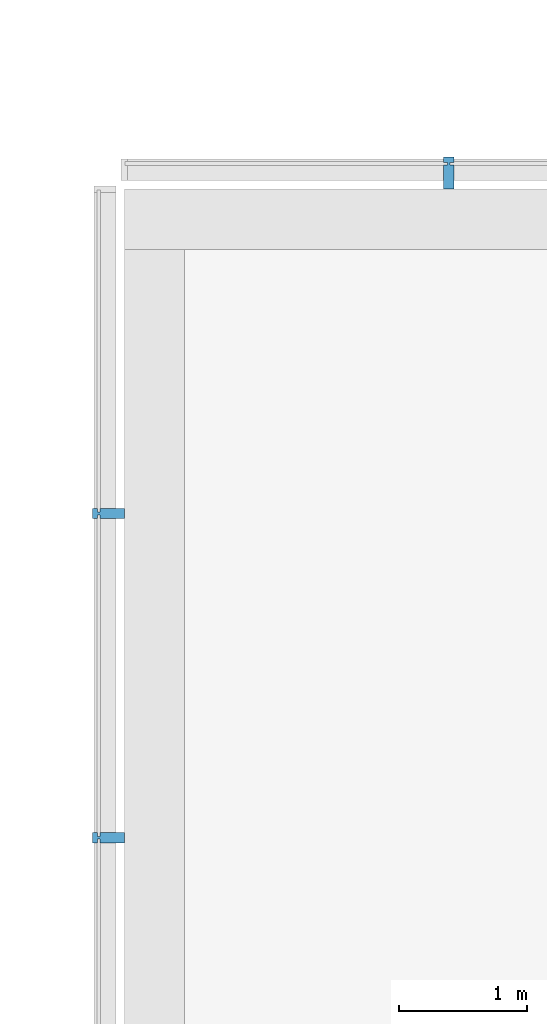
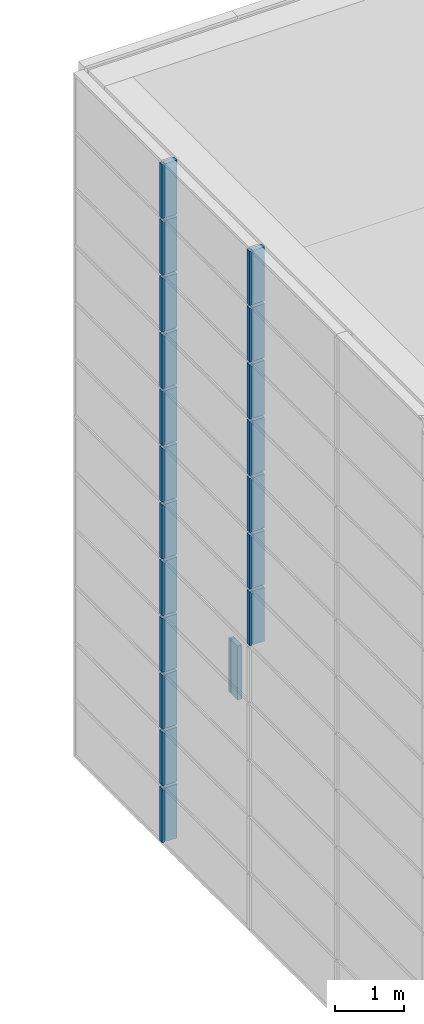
# One storey, part 84 of 105: 20 building element parts, 5 elements without a shape of their own.
"""IFC4 building model written with IfcOpenShell, lengths in millimetres."""

from ifc_helpers import new_model, entity, si_unit, converted_unit, derived_unit, direction, frame, origin_with_axes, place, context, subcontext, project, spatial, triangles, material, element, aggregate, save


model = new_model("IFC4")

# Units and contexts
model_context = context("Model", 3, precision=1e-05, world=origin_with_axes(), true_north=direction((0.0, 1.0)))
body_context = subcontext(model_context, "Body", "Model", "MODEL_VIEW")
ifc_project = project(units=[si_unit("LENGTHUNIT", "METRE", prefix="MILLI"), si_unit("AREAUNIT", "SQUARE_METRE"), si_unit("VOLUMEUNIT", "CUBIC_METRE"), converted_unit("PLANEANGLEUNIT", "DEGREE", entity("IfcLengthMeasure", 0.017453), si_unit("PLANEANGLEUNIT", "RADIAN"), dimensions=[0, 0, 0, 0, 0, 0, 0]), si_unit("SOLIDANGLEUNIT", "STERADIAN"), si_unit("MASSUNIT", "GRAM"), si_unit("TIMEUNIT", "SECOND"), si_unit("THERMODYNAMICTEMPERATUREUNIT", "DEGREE_CELSIUS"), si_unit("LUMINOUSINTENSITYUNIT", "LUMEN"), si_unit("POWERUNIT", "WATT"), derived_unit("THERMALTRANSMITTANCEUNIT", [(si_unit("POWERUNIT", "WATT"), 1), (si_unit("THERMODYNAMICTEMPERATUREUNIT", "KELVIN"), -1), (si_unit("AREAUNIT", "SQUARE_METRE"), -1)])], contexts=[model_context])

# Site, building, storey
site_placement = place(None, origin_with_axes())
site = spatial("IfcSite", under=ifc_project, at=site_placement, Name="Default Site", CompositionType="ELEMENT")
building_placement = place(site_placement, origin_with_axes())
building = spatial("IfcBuilding", under=site, at=building_placement, Name="Default Building", CompositionType="ELEMENT")
storey_placement = place(building_placement, origin_with_axes())
storey = spatial("IfcBuildingStorey", under=building, at=storey_placement, Name="OG - Story", CompositionType="ELEMENT", Elevation=0.0)

# Curtain wall, building element parts
curtain_wall_1_placement = place(storey_placement, origin_with_axes())
curtain_wall_1 = element("IfcCurtainWall", 1, at=curtain_wall_1_placement, inside=storey, Name="Fassade-003", PredefinedType="NOTDEFINED")
ifc_material = material(Name="Blech")
building_element_part_1_placement = place(curtain_wall_1_placement, frame((31551.391327, -51326.104944, 0.0), z_axis=(0.0, 0.0, 1.0), x_axis=(1.0, 0.0, 0.0)))
building_element_part_1 = element("IfcBuildingElementPart", 2, at=building_element_part_1_placement, material=ifc_material, Name="Blech", PredefinedType="NOTDEFINED", context=body_context, shape_type="Tessellation", body=[
    triangles([(200.0, 44170.526, 975.0), (10.0, 44170.526, 975.0), (200.0, 44250.526, 975.0), (10.0, 44200.526, 975.0), (10.0, 44220.526, 975.0), (-9.999, 44200.526, 975.0), (-9.999, 44220.526, 975.0), (-9.999, 44250.526, 975.0), (-9.999, 44170.526, 975.0), (-49.999, 44170.526, 975.0), (-49.999, 44250.526, 975.0), (10.0, 44250.526, 975.0), (10.0, 44220.526, 25.0), (-9.999, 44220.526, 25.0), (-9.999, 44250.526, 25.0), (-49.999, 44250.526, 25.0), (-49.999, 44170.526, 25.0), (-9.999, 44170.526, 25.0), (-9.999, 44200.526, 25.0), (10.0, 44200.526, 25.0), (10.0, 44170.526, 25.0), (200.0, 44170.526, 25.0), (200.0, 44250.526, 25.0), (10.0, 44250.526, 25.0)], [[1, 2, 3], [3, 2, 4], [3, 4, 5], [5, 4, 6], [5, 6, 7], [8, 9, 10], [8, 10, 11], [3, 5, 12], [5, 13, 14], [5, 14, 7], [7, 14, 15], [7, 15, 8], [15, 16, 11], [15, 11, 8], [10, 11, 16], [10, 16, 17], [18, 9, 10], [18, 10, 17], [9, 18, 19], [9, 19, 6], [4, 6, 19], [4, 19, 20], [2, 4, 20], [2, 20, 21], [2, 21, 22], [2, 22, 1], [3, 1, 22], [3, 22, 23], [12, 3, 23], [12, 23, 24], [12, 24, 13], [12, 13, 5], [23, 24, 22], [22, 24, 13], [22, 13, 20], [20, 13, 14], [20, 14, 19], [18, 15, 16], [18, 16, 17], [22, 20, 21]], closed=False),
])
building_element_part_2_placement = place(curtain_wall_1_placement, frame((31551.391327, -51326.104944, 0.0), z_axis=(0.0, 0.0, 1.0), x_axis=(1.0, 0.0, 0.0)))
building_element_part_2 = element("IfcBuildingElementPart", 3, at=building_element_part_2_placement, material=ifc_material, Name="Blech", PredefinedType="NOTDEFINED", context=body_context, shape_type="Tessellation", body=[
    triangles([(200.0, 44170.526, 1975.0), (10.0, 44170.526, 1975.0), (200.0, 44250.526, 1975.0), (10.0, 44200.526, 1975.0), (10.0, 44220.526, 1975.0), (-9.999, 44200.526, 1975.0), (-9.999, 44220.526, 1975.0), (-9.999, 44250.526, 1975.0), (-9.999, 44170.526, 1975.0), (-49.999, 44170.526, 1975.0), (-49.999, 44250.526, 1975.0), (10.0, 44250.526, 1975.0), (10.0, 44220.526, 1025.0), (-9.999, 44220.526, 1025.0), (-9.999, 44250.526, 1025.0), (-49.999, 44250.526, 1025.0), (-49.999, 44170.526, 1025.0), (-9.999, 44170.526, 1025.0), (-9.999, 44200.526, 1025.0), (10.0, 44200.526, 1025.0), (10.0, 44170.526, 1025.0), (200.0, 44170.526, 1025.0), (200.0, 44250.526, 1025.0), (10.0, 44250.526, 1025.0)], [[1, 2, 3], [3, 2, 4], [3, 4, 5], [5, 4, 6], [5, 6, 7], [8, 9, 10], [8, 10, 11], [3, 5, 12], [5, 13, 14], [5, 14, 7], [7, 14, 15], [7, 15, 8], [15, 16, 11], [15, 11, 8], [10, 11, 16], [10, 16, 17], [18, 9, 10], [18, 10, 17], [9, 18, 19], [9, 19, 6], [4, 6, 19], [4, 19, 20], [2, 4, 20], [2, 20, 21], [2, 21, 22], [2, 22, 1], [3, 1, 22], [3, 22, 23], [12, 3, 23], [12, 23, 24], [12, 24, 13], [12, 13, 5], [23, 24, 22], [22, 24, 13], [22, 13, 20], [20, 13, 14], [20, 14, 19], [18, 15, 16], [18, 16, 17], [22, 20, 21]], closed=False),
])
building_element_part_3_placement = place(curtain_wall_1_placement, frame((31551.391327, -51326.104944, 0.0), z_axis=(0.0, 0.0, 1.0), x_axis=(1.0, 0.0, 0.0)))
building_element_part_3 = element("IfcBuildingElementPart", 4, at=building_element_part_3_placement, material=ifc_material, Name="Blech", PredefinedType="NOTDEFINED", context=body_context, shape_type="Tessellation", body=[
    triangles([(200.0, 44170.526, 2975.0), (10.0, 44170.526, 2975.0), (200.0, 44250.526, 2975.0), (10.0, 44200.526, 2975.0), (10.0, 44220.526, 2975.0), (-9.999, 44200.526, 2975.0), (-9.999, 44220.526, 2975.0), (-9.999, 44250.526, 2975.0), (-9.999, 44170.526, 2975.0), (-49.999, 44170.526, 2975.0), (-49.999, 44250.526, 2975.0), (10.0, 44250.526, 2975.0), (10.0, 44220.526, 2025.0), (-9.999, 44220.526, 2025.0), (-9.999, 44250.526, 2025.0), (-49.999, 44250.526, 2025.0), (-49.999, 44170.526, 2025.0), (-9.999, 44170.526, 2025.0), (-9.999, 44200.526, 2025.0), (10.0, 44200.526, 2025.0), (10.0, 44170.526, 2025.0), (200.0, 44170.526, 2025.0), (200.0, 44250.526, 2025.0), (10.0, 44250.526, 2025.0)], [[1, 2, 3], [3, 2, 4], [3, 4, 5], [5, 4, 6], [5, 6, 7], [8, 9, 10], [8, 10, 11], [3, 5, 12], [5, 13, 14], [5, 14, 7], [7, 14, 15], [7, 15, 8], [15, 16, 11], [15, 11, 8], [10, 11, 16], [10, 16, 17], [18, 9, 10], [18, 10, 17], [9, 18, 19], [9, 19, 6], [4, 6, 19], [4, 19, 20], [2, 4, 20], [2, 20, 21], [2, 21, 22], [2, 22, 1], [3, 1, 22], [3, 22, 23], [12, 3, 23], [12, 23, 24], [12, 24, 13], [12, 13, 5], [23, 24, 22], [22, 24, 13], [22, 13, 20], [20, 13, 14], [20, 14, 19], [18, 15, 16], [18, 16, 17], [22, 20, 21]], closed=False),
])
aggregate(curtain_wall_1, [building_element_part_1, building_element_part_2, building_element_part_3])

curtain_wall_2_placement = place(storey_placement, origin_with_axes())
curtain_wall_2 = element("IfcCurtainWall", 5, at=curtain_wall_2_placement, inside=storey, Name="Fassade-003", PredefinedType="NOTDEFINED")
building_element_part_4_placement = place(curtain_wall_2_placement, frame((31551.391327, -51326.104944, 3000.0), z_axis=(0.0, 0.0, 1.0), x_axis=(1.0, 0.0, 0.0)))
building_element_part_4 = element("IfcBuildingElementPart", 6, at=building_element_part_4_placement, material=ifc_material, Name="Blech", PredefinedType="NOTDEFINED", context=body_context, shape_type="Tessellation", body=[
    triangles([(200.0, 44170.526, 975.0), (10.0, 44170.526, 975.0), (200.0, 44250.526, 975.0), (10.0, 44200.526, 975.0), (10.0, 44220.526, 975.0), (-9.999, 44200.526, 975.0), (-9.999, 44220.526, 975.0), (-9.999, 44250.526, 975.0), (-9.999, 44170.526, 975.0), (-49.999, 44170.526, 975.0), (-49.999, 44250.526, 975.0), (10.0, 44250.526, 975.0), (10.0, 44220.526, 25.0), (-9.999, 44220.526, 25.0), (-9.999, 44250.526, 25.0), (-49.999, 44250.526, 25.0), (-49.999, 44170.526, 25.0), (-9.999, 44170.526, 25.0), (-9.999, 44200.526, 25.0), (10.0, 44200.526, 25.0), (10.0, 44170.526, 25.0), (200.0, 44170.526, 25.0), (200.0, 44250.526, 25.0), (10.0, 44250.526, 25.0)], [[1, 2, 3], [3, 2, 4], [3, 4, 5], [5, 4, 6], [5, 6, 7], [8, 9, 10], [8, 10, 11], [3, 5, 12], [5, 13, 14], [5, 14, 7], [7, 14, 15], [7, 15, 8], [15, 16, 11], [15, 11, 8], [10, 11, 16], [10, 16, 17], [18, 9, 10], [18, 10, 17], [9, 18, 19], [9, 19, 6], [4, 6, 19], [4, 19, 20], [2, 4, 20], [2, 20, 21], [2, 21, 22], [2, 22, 1], [3, 1, 22], [3, 22, 23], [12, 3, 23], [12, 23, 24], [12, 24, 13], [12, 13, 5], [23, 24, 22], [22, 24, 13], [22, 13, 20], [20, 13, 14], [20, 14, 19], [18, 15, 16], [18, 16, 17], [22, 20, 21]], closed=False),
])
building_element_part_5_placement = place(curtain_wall_2_placement, frame((31551.391327, -51326.104944, 3000.0), z_axis=(0.0, 0.0, 1.0), x_axis=(1.0, 0.0, 0.0)))
building_element_part_5 = element("IfcBuildingElementPart", 7, at=building_element_part_5_placement, material=ifc_material, Name="Blech", PredefinedType="NOTDEFINED", context=body_context, shape_type="Tessellation", body=[
    triangles([(200.0, 44170.526, 1975.0), (10.0, 44170.526, 1975.0), (200.0, 44250.526, 1975.0), (10.0, 44200.526, 1975.0), (10.0, 44220.526, 1975.0), (-9.999, 44200.526, 1975.0), (-9.999, 44220.526, 1975.0), (-9.999, 44250.526, 1975.0), (-9.999, 44170.526, 1975.0), (-49.999, 44170.526, 1975.0), (-49.999, 44250.526, 1975.0), (10.0, 44250.526, 1975.0), (10.0, 44220.526, 1025.0), (-9.999, 44220.526, 1025.0), (-9.999, 44250.526, 1025.0), (-49.999, 44250.526, 1025.0), (-49.999, 44170.526, 1025.0), (-9.999, 44170.526, 1025.0), (-9.999, 44200.526, 1025.0), (10.0, 44200.526, 1025.0), (10.0, 44170.526, 1025.0), (200.0, 44170.526, 1025.0), (200.0, 44250.526, 1025.0), (10.0, 44250.526, 1025.0)], [[1, 2, 3], [3, 2, 4], [3, 4, 5], [5, 4, 6], [5, 6, 7], [8, 9, 10], [8, 10, 11], [3, 5, 12], [5, 13, 14], [5, 14, 7], [7, 14, 15], [7, 15, 8], [15, 16, 11], [15, 11, 8], [10, 11, 16], [10, 16, 17], [18, 9, 10], [18, 10, 17], [9, 18, 19], [9, 19, 6], [4, 6, 19], [4, 19, 20], [2, 4, 20], [2, 20, 21], [2, 21, 22], [2, 22, 1], [3, 1, 22], [3, 22, 23], [12, 3, 23], [12, 23, 24], [12, 24, 13], [12, 13, 5], [23, 24, 22], [22, 24, 13], [22, 13, 20], [20, 13, 14], [20, 14, 19], [18, 15, 16], [18, 16, 17], [22, 20, 21]], closed=False),
])
building_element_part_6_placement = place(curtain_wall_2_placement, frame((31551.391327, -51326.104944, 3000.0), z_axis=(0.0, 0.0, 1.0), x_axis=(1.0, 0.0, 0.0)))
building_element_part_6 = element("IfcBuildingElementPart", 8, at=building_element_part_6_placement, material=ifc_material, Name="Blech", PredefinedType="NOTDEFINED", context=body_context, shape_type="Tessellation", body=[
    triangles([(200.0, 41644.211, 2975.0), (10.0, 41644.211, 2975.0), (200.0, 41724.211, 2975.0), (10.0, 41674.211, 2975.0), (10.0, 41694.211, 2975.0), (-9.999, 41674.211, 2975.0), (-9.999, 41694.211, 2975.0), (-9.999, 41724.211, 2975.0), (-9.999, 41644.211, 2975.0), (-49.999, 41644.211, 2975.0), (-49.999, 41724.211, 2975.0), (10.0, 41724.211, 2975.0), (10.0, 41694.211, 2025.0), (-9.999, 41694.211, 2025.0), (-9.999, 41724.211, 2025.0), (-49.999, 41724.211, 2025.0), (-49.999, 41644.211, 2025.0), (-9.999, 41644.211, 2025.0), (-9.999, 41674.211, 2025.0), (10.0, 41674.211, 2025.0), (10.0, 41644.211, 2025.0), (200.0, 41644.211, 2025.0), (200.0, 41724.211, 2025.0), (10.0, 41724.211, 2025.0)], [[1, 2, 3], [3, 2, 4], [3, 4, 5], [5, 4, 6], [5, 6, 7], [8, 9, 10], [8, 10, 11], [3, 5, 12], [5, 13, 14], [5, 14, 7], [7, 14, 15], [7, 15, 8], [15, 16, 11], [15, 11, 8], [10, 11, 16], [10, 16, 17], [18, 9, 10], [18, 10, 17], [9, 18, 19], [9, 19, 6], [4, 6, 19], [4, 19, 20], [2, 4, 20], [2, 20, 21], [2, 21, 22], [2, 22, 1], [3, 1, 22], [3, 22, 23], [12, 3, 23], [12, 23, 24], [12, 24, 13], [12, 13, 5], [23, 24, 22], [22, 24, 13], [22, 13, 20], [20, 13, 14], [20, 14, 19], [18, 15, 16], [18, 16, 17], [22, 20, 21]], closed=False),
])
building_element_part_7_placement = place(curtain_wall_2_placement, frame((31551.391327, -51326.104944, 3000.0), z_axis=(0.0, 0.0, 1.0), x_axis=(1.0, 0.0, 0.0)))
building_element_part_7 = element("IfcBuildingElementPart", 9, at=building_element_part_7_placement, material=ifc_material, Name="Blech", PredefinedType="NOTDEFINED", context=body_context, shape_type="Tessellation", body=[
    triangles([(200.0, 44170.526, 2975.0), (10.0, 44170.526, 2975.0), (200.0, 44250.526, 2975.0), (10.0, 44200.526, 2975.0), (10.0, 44220.526, 2975.0), (-9.999, 44200.526, 2975.0), (-9.999, 44220.526, 2975.0), (-9.999, 44250.526, 2975.0), (-9.999, 44170.526, 2975.0), (-49.999, 44170.526, 2975.0), (-49.999, 44250.526, 2975.0), (10.0, 44250.526, 2975.0), (10.0, 44220.526, 2025.0), (-9.999, 44220.526, 2025.0), (-9.999, 44250.526, 2025.0), (-49.999, 44250.526, 2025.0), (-49.999, 44170.526, 2025.0), (-9.999, 44170.526, 2025.0), (-9.999, 44200.526, 2025.0), (10.0, 44200.526, 2025.0), (10.0, 44170.526, 2025.0), (200.0, 44170.526, 2025.0), (200.0, 44250.526, 2025.0), (10.0, 44250.526, 2025.0)], [[1, 2, 3], [3, 2, 4], [3, 4, 5], [5, 4, 6], [5, 6, 7], [8, 9, 10], [8, 10, 11], [3, 5, 12], [5, 13, 14], [5, 14, 7], [7, 14, 15], [7, 15, 8], [15, 16, 11], [15, 11, 8], [10, 11, 16], [10, 16, 17], [18, 9, 10], [18, 10, 17], [9, 18, 19], [9, 19, 6], [4, 6, 19], [4, 19, 20], [2, 4, 20], [2, 20, 21], [2, 21, 22], [2, 22, 1], [3, 1, 22], [3, 22, 23], [12, 3, 23], [12, 23, 24], [12, 24, 13], [12, 13, 5], [23, 24, 22], [22, 24, 13], [22, 13, 20], [20, 13, 14], [20, 14, 19], [18, 15, 16], [18, 16, 17], [22, 20, 21]], closed=False),
])
aggregate(curtain_wall_2, [building_element_part_4, building_element_part_5, building_element_part_6, building_element_part_7])

curtain_wall_3_placement = place(storey_placement, origin_with_axes())
curtain_wall_3 = element("IfcCurtainWall", 10, at=curtain_wall_3_placement, inside=storey, Name="Fassade-003", PredefinedType="NOTDEFINED")
building_element_part_8_placement = place(curtain_wall_3_placement, frame((31551.391327, -51326.104944, 6000.0), z_axis=(0.0, 0.0, 1.0), x_axis=(1.0, 0.0, 0.0)))
building_element_part_8 = element("IfcBuildingElementPart", 11, at=building_element_part_8_placement, material=ifc_material, Name="Blech", PredefinedType="NOTDEFINED", context=body_context, shape_type="Tessellation", body=[
    triangles([(200.0, 41644.211, 975.0), (10.0, 41644.211, 975.0), (200.0, 41724.211, 975.0), (10.0, 41674.211, 975.0), (10.0, 41694.211, 975.0), (-9.999, 41674.211, 975.0), (-9.999, 41694.211, 975.0), (-9.999, 41724.211, 975.0), (-9.999, 41644.211, 975.0), (-49.999, 41644.211, 975.0), (-49.999, 41724.211, 975.0), (10.0, 41724.211, 975.0), (10.0, 41694.211, 25.0), (-9.999, 41694.211, 25.0), (-9.999, 41724.211, 25.0), (-49.999, 41724.211, 25.0), (-49.999, 41644.211, 25.0), (-9.999, 41644.211, 25.0), (-9.999, 41674.211, 25.0), (10.0, 41674.211, 25.0), (10.0, 41644.211, 25.0), (200.0, 41644.211, 25.0), (200.0, 41724.211, 25.0), (10.0, 41724.211, 25.0)], [[1, 2, 3], [3, 2, 4], [3, 4, 5], [5, 4, 6], [5, 6, 7], [8, 9, 10], [8, 10, 11], [3, 5, 12], [5, 13, 14], [5, 14, 7], [7, 14, 15], [7, 15, 8], [15, 16, 11], [15, 11, 8], [10, 11, 16], [10, 16, 17], [18, 9, 10], [18, 10, 17], [9, 18, 19], [9, 19, 6], [4, 6, 19], [4, 19, 20], [2, 4, 20], [2, 20, 21], [2, 21, 22], [2, 22, 1], [3, 1, 22], [3, 22, 23], [12, 3, 23], [12, 23, 24], [12, 24, 13], [12, 13, 5], [23, 24, 22], [22, 24, 13], [22, 13, 20], [20, 13, 14], [20, 14, 19], [18, 15, 16], [18, 16, 17], [22, 20, 21]], closed=False),
])
building_element_part_9_placement = place(curtain_wall_3_placement, frame((31551.391327, -51326.104944, 6000.0), z_axis=(0.0, 0.0, 1.0), x_axis=(1.0, 0.0, 0.0)))
building_element_part_9 = element("IfcBuildingElementPart", 12, at=building_element_part_9_placement, material=ifc_material, Name="Blech", PredefinedType="NOTDEFINED", context=body_context, shape_type="Tessellation", body=[
    triangles([(200.0, 44170.526, 975.0), (10.0, 44170.526, 975.0), (200.0, 44250.526, 975.0), (10.0, 44200.526, 975.0), (10.0, 44220.526, 975.0), (-9.999, 44200.526, 975.0), (-9.999, 44220.526, 975.0), (-9.999, 44250.526, 975.0), (-9.999, 44170.526, 975.0), (-49.999, 44170.526, 975.0), (-49.999, 44250.526, 975.0), (10.0, 44250.526, 975.0), (10.0, 44220.526, 25.0), (-9.999, 44220.526, 25.0), (-9.999, 44250.526, 25.0), (-49.999, 44250.526, 25.0), (-49.999, 44170.526, 25.0), (-9.999, 44170.526, 25.0), (-9.999, 44200.526, 25.0), (10.0, 44200.526, 25.0), (10.0, 44170.526, 25.0), (200.0, 44170.526, 25.0), (200.0, 44250.526, 25.0), (10.0, 44250.526, 25.0)], [[1, 2, 3], [3, 2, 4], [3, 4, 5], [5, 4, 6], [5, 6, 7], [8, 9, 10], [8, 10, 11], [3, 5, 12], [5, 13, 14], [5, 14, 7], [7, 14, 15], [7, 15, 8], [15, 16, 11], [15, 11, 8], [10, 11, 16], [10, 16, 17], [18, 9, 10], [18, 10, 17], [9, 18, 19], [9, 19, 6], [4, 6, 19], [4, 19, 20], [2, 4, 20], [2, 20, 21], [2, 21, 22], [2, 22, 1], [3, 1, 22], [3, 22, 23], [12, 3, 23], [12, 23, 24], [12, 24, 13], [12, 13, 5], [23, 24, 22], [22, 24, 13], [22, 13, 20], [20, 13, 14], [20, 14, 19], [18, 15, 16], [18, 16, 17], [22, 20, 21]], closed=False),
])
building_element_part_10_placement = place(curtain_wall_3_placement, frame((31551.391327, -51326.104944, 6000.0), z_axis=(0.0, 0.0, 1.0), x_axis=(1.0, 0.0, 0.0)))
building_element_part_10 = element("IfcBuildingElementPart", 13, at=building_element_part_10_placement, material=ifc_material, Name="Blech", PredefinedType="NOTDEFINED", context=body_context, shape_type="Tessellation", body=[
    triangles([(200.0, 41644.211, 1975.0), (10.0, 41644.211, 1975.0), (200.0, 41724.211, 1975.0), (10.0, 41674.211, 1975.0), (10.0, 41694.211, 1975.0), (-9.999, 41674.211, 1975.0), (-9.999, 41694.211, 1975.0), (-9.999, 41724.211, 1975.0), (-9.999, 41644.211, 1975.0), (-49.999, 41644.211, 1975.0), (-49.999, 41724.211, 1975.0), (10.0, 41724.211, 1975.0), (10.0, 41694.211, 1025.0), (-9.999, 41694.211, 1025.0), (-9.999, 41724.211, 1025.0), (-49.999, 41724.211, 1025.0), (-49.999, 41644.211, 1025.0), (-9.999, 41644.211, 1025.0), (-9.999, 41674.211, 1025.0), (10.0, 41674.211, 1025.0), (10.0, 41644.211, 1025.0), (200.0, 41644.211, 1025.0), (200.0, 41724.211, 1025.0), (10.0, 41724.211, 1025.0)], [[1, 2, 3], [3, 2, 4], [3, 4, 5], [5, 4, 6], [5, 6, 7], [8, 9, 10], [8, 10, 11], [3, 5, 12], [5, 13, 14], [5, 14, 7], [7, 14, 15], [7, 15, 8], [15, 16, 11], [15, 11, 8], [10, 11, 16], [10, 16, 17], [18, 9, 10], [18, 10, 17], [9, 18, 19], [9, 19, 6], [4, 6, 19], [4, 19, 20], [2, 4, 20], [2, 20, 21], [2, 21, 22], [2, 22, 1], [3, 1, 22], [3, 22, 23], [12, 3, 23], [12, 23, 24], [12, 24, 13], [12, 13, 5], [23, 24, 22], [22, 24, 13], [22, 13, 20], [20, 13, 14], [20, 14, 19], [18, 15, 16], [18, 16, 17], [22, 20, 21]], closed=False),
])
building_element_part_11_placement = place(curtain_wall_3_placement, frame((31551.391327, -51326.104944, 6000.0), z_axis=(0.0, 0.0, 1.0), x_axis=(1.0, 0.0, 0.0)))
building_element_part_11 = element("IfcBuildingElementPart", 14, at=building_element_part_11_placement, material=ifc_material, Name="Blech", PredefinedType="NOTDEFINED", context=body_context, shape_type="Tessellation", body=[
    triangles([(200.0, 44170.526, 1975.0), (10.0, 44170.526, 1975.0), (200.0, 44250.526, 1975.0), (10.0, 44200.526, 1975.0), (10.0, 44220.526, 1975.0), (-9.999, 44200.526, 1975.0), (-9.999, 44220.526, 1975.0), (-9.999, 44250.526, 1975.0), (-9.999, 44170.526, 1975.0), (-49.999, 44170.526, 1975.0), (-49.999, 44250.526, 1975.0), (10.0, 44250.526, 1975.0), (10.0, 44220.526, 1025.0), (-9.999, 44220.526, 1025.0), (-9.999, 44250.526, 1025.0), (-49.999, 44250.526, 1025.0), (-49.999, 44170.526, 1025.0), (-9.999, 44170.526, 1025.0), (-9.999, 44200.526, 1025.0), (10.0, 44200.526, 1025.0), (10.0, 44170.526, 1025.0), (200.0, 44170.526, 1025.0), (200.0, 44250.526, 1025.0), (10.0, 44250.526, 1025.0)], [[1, 2, 3], [3, 2, 4], [3, 4, 5], [5, 4, 6], [5, 6, 7], [8, 9, 10], [8, 10, 11], [3, 5, 12], [5, 13, 14], [5, 14, 7], [7, 14, 15], [7, 15, 8], [15, 16, 11], [15, 11, 8], [10, 11, 16], [10, 16, 17], [18, 9, 10], [18, 10, 17], [9, 18, 19], [9, 19, 6], [4, 6, 19], [4, 19, 20], [2, 4, 20], [2, 20, 21], [2, 21, 22], [2, 22, 1], [3, 1, 22], [3, 22, 23], [12, 3, 23], [12, 23, 24], [12, 24, 13], [12, 13, 5], [23, 24, 22], [22, 24, 13], [22, 13, 20], [20, 13, 14], [20, 14, 19], [18, 15, 16], [18, 16, 17], [22, 20, 21]], closed=False),
])
building_element_part_12_placement = place(curtain_wall_3_placement, frame((31551.391327, -51326.104944, 6000.0), z_axis=(0.0, 0.0, 1.0), x_axis=(1.0, 0.0, 0.0)))
building_element_part_12 = element("IfcBuildingElementPart", 15, at=building_element_part_12_placement, material=ifc_material, Name="Blech", PredefinedType="NOTDEFINED", context=body_context, shape_type="Tessellation", body=[
    triangles([(200.0, 41644.211, 2975.0), (10.0, 41644.211, 2975.0), (200.0, 41724.211, 2975.0), (10.0, 41674.211, 2975.0), (10.0, 41694.211, 2975.0), (-9.999, 41674.211, 2975.0), (-9.999, 41694.211, 2975.0), (-9.999, 41724.211, 2975.0), (-9.999, 41644.211, 2975.0), (-49.999, 41644.211, 2975.0), (-49.999, 41724.211, 2975.0), (10.0, 41724.211, 2975.0), (10.0, 41694.211, 2025.0), (-9.999, 41694.211, 2025.0), (-9.999, 41724.211, 2025.0), (-49.999, 41724.211, 2025.0), (-49.999, 41644.211, 2025.0), (-9.999, 41644.211, 2025.0), (-9.999, 41674.211, 2025.0), (10.0, 41674.211, 2025.0), (10.0, 41644.211, 2025.0), (200.0, 41644.211, 2025.0), (200.0, 41724.211, 2025.0), (10.0, 41724.211, 2025.0)], [[1, 2, 3], [3, 2, 4], [3, 4, 5], [5, 4, 6], [5, 6, 7], [8, 9, 10], [8, 10, 11], [3, 5, 12], [5, 13, 14], [5, 14, 7], [7, 14, 15], [7, 15, 8], [15, 16, 11], [15, 11, 8], [10, 11, 16], [10, 16, 17], [18, 9, 10], [18, 10, 17], [9, 18, 19], [9, 19, 6], [4, 6, 19], [4, 19, 20], [2, 4, 20], [2, 20, 21], [2, 21, 22], [2, 22, 1], [3, 1, 22], [3, 22, 23], [12, 3, 23], [12, 23, 24], [12, 24, 13], [12, 13, 5], [23, 24, 22], [22, 24, 13], [22, 13, 20], [20, 13, 14], [20, 14, 19], [18, 15, 16], [18, 16, 17], [22, 20, 21]], closed=False),
])
building_element_part_13_placement = place(curtain_wall_3_placement, frame((31551.391327, -51326.104944, 6000.0), z_axis=(0.0, 0.0, 1.0), x_axis=(1.0, 0.0, 0.0)))
building_element_part_13 = element("IfcBuildingElementPart", 16, at=building_element_part_13_placement, material=ifc_material, Name="Blech", PredefinedType="NOTDEFINED", context=body_context, shape_type="Tessellation", body=[
    triangles([(200.0, 44170.526, 2975.0), (10.0, 44170.526, 2975.0), (200.0, 44250.526, 2975.0), (10.0, 44200.526, 2975.0), (10.0, 44220.526, 2975.0), (-9.999, 44200.526, 2975.0), (-9.999, 44220.526, 2975.0), (-9.999, 44250.526, 2975.0), (-9.999, 44170.526, 2975.0), (-49.999, 44170.526, 2975.0), (-49.999, 44250.526, 2975.0), (10.0, 44250.526, 2975.0), (10.0, 44220.526, 2025.0), (-9.999, 44220.526, 2025.0), (-9.999, 44250.526, 2025.0), (-49.999, 44250.526, 2025.0), (-49.999, 44170.526, 2025.0), (-9.999, 44170.526, 2025.0), (-9.999, 44200.526, 2025.0), (10.0, 44200.526, 2025.0), (10.0, 44170.526, 2025.0), (200.0, 44170.526, 2025.0), (200.0, 44250.526, 2025.0), (10.0, 44250.526, 2025.0)], [[1, 2, 3], [3, 2, 4], [3, 4, 5], [5, 4, 6], [5, 6, 7], [8, 9, 10], [8, 10, 11], [3, 5, 12], [5, 13, 14], [5, 14, 7], [7, 14, 15], [7, 15, 8], [15, 16, 11], [15, 11, 8], [10, 11, 16], [10, 16, 17], [18, 9, 10], [18, 10, 17], [9, 18, 19], [9, 19, 6], [4, 6, 19], [4, 19, 20], [2, 4, 20], [2, 20, 21], [2, 21, 22], [2, 22, 1], [3, 1, 22], [3, 22, 23], [12, 3, 23], [12, 23, 24], [12, 24, 13], [12, 13, 5], [23, 24, 22], [22, 24, 13], [22, 13, 20], [20, 13, 14], [20, 14, 19], [18, 15, 16], [18, 16, 17], [22, 20, 21]], closed=False),
])
aggregate(curtain_wall_3, [building_element_part_8, building_element_part_9, building_element_part_10, building_element_part_11, building_element_part_12, building_element_part_13])

curtain_wall_4_placement = place(storey_placement, origin_with_axes())
curtain_wall_4 = element("IfcCurtainWall", 17, at=curtain_wall_4_placement, inside=storey, Name="Fassade-003", PredefinedType="NOTDEFINED")
building_element_part_14_placement = place(curtain_wall_4_placement, frame((31551.391327, -51326.104944, 9000.0), z_axis=(0.0, 0.0, 1.0), x_axis=(1.0, 0.0, 0.0)))
building_element_part_14 = element("IfcBuildingElementPart", 18, at=building_element_part_14_placement, material=ifc_material, Name="Blech", PredefinedType="NOTDEFINED", context=body_context, shape_type="Tessellation", body=[
    triangles([(200.0, 41644.211, 975.0), (10.0, 41644.211, 975.0), (200.0, 41724.211, 975.0), (10.0, 41674.211, 975.0), (10.0, 41694.211, 975.0), (-9.999, 41674.211, 975.0), (-9.999, 41694.211, 975.0), (-9.999, 41724.211, 975.0), (-9.999, 41644.211, 975.0), (-49.999, 41644.211, 975.0), (-49.999, 41724.211, 975.0), (10.0, 41724.211, 975.0), (10.0, 41694.211, 25.0), (-9.999, 41694.211, 25.0), (-9.999, 41724.211, 25.0), (-49.999, 41724.211, 25.0), (-49.999, 41644.211, 25.0), (-9.999, 41644.211, 25.0), (-9.999, 41674.211, 25.0), (10.0, 41674.211, 25.0), (10.0, 41644.211, 25.0), (200.0, 41644.211, 25.0), (200.0, 41724.211, 25.0), (10.0, 41724.211, 25.0)], [[1, 2, 3], [3, 2, 4], [3, 4, 5], [5, 4, 6], [5, 6, 7], [8, 9, 10], [8, 10, 11], [3, 5, 12], [5, 13, 14], [5, 14, 7], [7, 14, 15], [7, 15, 8], [15, 16, 11], [15, 11, 8], [10, 11, 16], [10, 16, 17], [18, 9, 10], [18, 10, 17], [9, 18, 19], [9, 19, 6], [4, 6, 19], [4, 19, 20], [2, 4, 20], [2, 20, 21], [2, 21, 22], [2, 22, 1], [3, 1, 22], [3, 22, 23], [12, 3, 23], [12, 23, 24], [12, 24, 13], [12, 13, 5], [23, 24, 22], [22, 24, 13], [22, 13, 20], [20, 13, 14], [20, 14, 19], [18, 15, 16], [18, 16, 17], [22, 20, 21]], closed=False),
])
building_element_part_15_placement = place(curtain_wall_4_placement, frame((31551.391327, -51326.104944, 9000.0), z_axis=(0.0, 0.0, 1.0), x_axis=(1.0, 0.0, 0.0)))
building_element_part_15 = element("IfcBuildingElementPart", 19, at=building_element_part_15_placement, material=ifc_material, Name="Blech", PredefinedType="NOTDEFINED", context=body_context, shape_type="Tessellation", body=[
    triangles([(200.0, 44170.526, 975.0), (10.0, 44170.526, 975.0), (200.0, 44250.526, 975.0), (10.0, 44200.526, 975.0), (10.0, 44220.526, 975.0), (-9.999, 44200.526, 975.0), (-9.999, 44220.526, 975.0), (-9.999, 44250.526, 975.0), (-9.999, 44170.526, 975.0), (-49.999, 44170.526, 975.0), (-49.999, 44250.526, 975.0), (10.0, 44250.526, 975.0), (10.0, 44220.526, 25.0), (-9.999, 44220.526, 25.0), (-9.999, 44250.526, 25.0), (-49.999, 44250.526, 25.0), (-49.999, 44170.526, 25.0), (-9.999, 44170.526, 25.0), (-9.999, 44200.526, 25.0), (10.0, 44200.526, 25.0), (10.0, 44170.526, 25.0), (200.0, 44170.526, 25.0), (200.0, 44250.526, 25.0), (10.0, 44250.526, 25.0)], [[1, 2, 3], [3, 2, 4], [3, 4, 5], [5, 4, 6], [5, 6, 7], [8, 9, 10], [8, 10, 11], [3, 5, 12], [5, 13, 14], [5, 14, 7], [7, 14, 15], [7, 15, 8], [15, 16, 11], [15, 11, 8], [10, 11, 16], [10, 16, 17], [18, 9, 10], [18, 10, 17], [9, 18, 19], [9, 19, 6], [4, 6, 19], [4, 19, 20], [2, 4, 20], [2, 20, 21], [2, 21, 22], [2, 22, 1], [3, 1, 22], [3, 22, 23], [12, 3, 23], [12, 23, 24], [12, 24, 13], [12, 13, 5], [23, 24, 22], [22, 24, 13], [22, 13, 20], [20, 13, 14], [20, 14, 19], [18, 15, 16], [18, 16, 17], [22, 20, 21]], closed=False),
])
building_element_part_16_placement = place(curtain_wall_4_placement, frame((31551.391327, -51326.104944, 9000.0), z_axis=(0.0, 0.0, 1.0), x_axis=(1.0, 0.0, 0.0)))
building_element_part_16 = element("IfcBuildingElementPart", 20, at=building_element_part_16_placement, material=ifc_material, Name="Blech", PredefinedType="NOTDEFINED", context=body_context, shape_type="Tessellation", body=[
    triangles([(200.0, 41644.211, 1975.0), (10.0, 41644.211, 1975.0), (200.0, 41724.211, 1975.0), (10.0, 41674.211, 1975.0), (10.0, 41694.211, 1975.0), (-9.999, 41674.211, 1975.0), (-9.999, 41694.211, 1975.0), (-9.999, 41724.211, 1975.0), (-9.999, 41644.211, 1975.0), (-49.999, 41644.211, 1975.0), (-49.999, 41724.211, 1975.0), (10.0, 41724.211, 1975.0), (10.0, 41694.211, 1025.0), (-9.999, 41694.211, 1025.0), (-9.999, 41724.211, 1025.0), (-49.999, 41724.211, 1025.0), (-49.999, 41644.211, 1025.0), (-9.999, 41644.211, 1025.0), (-9.999, 41674.211, 1025.0), (10.0, 41674.211, 1025.0), (10.0, 41644.211, 1025.0), (200.0, 41644.211, 1025.0), (200.0, 41724.211, 1025.0), (10.0, 41724.211, 1025.0)], [[1, 2, 3], [3, 2, 4], [3, 4, 5], [5, 4, 6], [5, 6, 7], [8, 9, 10], [8, 10, 11], [3, 5, 12], [5, 13, 14], [5, 14, 7], [7, 14, 15], [7, 15, 8], [15, 16, 11], [15, 11, 8], [10, 11, 16], [10, 16, 17], [18, 9, 10], [18, 10, 17], [9, 18, 19], [9, 19, 6], [4, 6, 19], [4, 19, 20], [2, 4, 20], [2, 20, 21], [2, 21, 22], [2, 22, 1], [3, 1, 22], [3, 22, 23], [12, 3, 23], [12, 23, 24], [12, 24, 13], [12, 13, 5], [23, 24, 22], [22, 24, 13], [22, 13, 20], [20, 13, 14], [20, 14, 19], [18, 15, 16], [18, 16, 17], [22, 20, 21]], closed=False),
])
building_element_part_17_placement = place(curtain_wall_4_placement, frame((31551.391327, -51326.104944, 9000.0), z_axis=(0.0, 0.0, 1.0), x_axis=(1.0, 0.0, 0.0)))
building_element_part_17 = element("IfcBuildingElementPart", 21, at=building_element_part_17_placement, material=ifc_material, Name="Blech", PredefinedType="NOTDEFINED", context=body_context, shape_type="Tessellation", body=[
    triangles([(200.0, 44170.526, 1975.0), (10.0, 44170.526, 1975.0), (200.0, 44250.526, 1975.0), (10.0, 44200.526, 1975.0), (10.0, 44220.526, 1975.0), (-9.999, 44200.526, 1975.0), (-9.999, 44220.526, 1975.0), (-9.999, 44250.526, 1975.0), (-9.999, 44170.526, 1975.0), (-49.999, 44170.526, 1975.0), (-49.999, 44250.526, 1975.0), (10.0, 44250.526, 1975.0), (10.0, 44220.526, 1025.0), (-9.999, 44220.526, 1025.0), (-9.999, 44250.526, 1025.0), (-49.999, 44250.526, 1025.0), (-49.999, 44170.526, 1025.0), (-9.999, 44170.526, 1025.0), (-9.999, 44200.526, 1025.0), (10.0, 44200.526, 1025.0), (10.0, 44170.526, 1025.0), (200.0, 44170.526, 1025.0), (200.0, 44250.526, 1025.0), (10.0, 44250.526, 1025.0)], [[1, 2, 3], [3, 2, 4], [3, 4, 5], [5, 4, 6], [5, 6, 7], [8, 9, 10], [8, 10, 11], [3, 5, 12], [5, 13, 14], [5, 14, 7], [7, 14, 15], [7, 15, 8], [15, 16, 11], [15, 11, 8], [10, 11, 16], [10, 16, 17], [18, 9, 10], [18, 10, 17], [9, 18, 19], [9, 19, 6], [4, 6, 19], [4, 19, 20], [2, 4, 20], [2, 20, 21], [2, 21, 22], [2, 22, 1], [3, 1, 22], [3, 22, 23], [12, 3, 23], [12, 23, 24], [12, 24, 13], [12, 13, 5], [23, 24, 22], [22, 24, 13], [22, 13, 20], [20, 13, 14], [20, 14, 19], [18, 15, 16], [18, 16, 17], [22, 20, 21]], closed=False),
])
building_element_part_18_placement = place(curtain_wall_4_placement, frame((31551.391327, -51326.104944, 9000.0), z_axis=(0.0, 0.0, 1.0), x_axis=(1.0, 0.0, 0.0)))
building_element_part_18 = element("IfcBuildingElementPart", 22, at=building_element_part_18_placement, material=ifc_material, Name="Blech", PredefinedType="NOTDEFINED", context=body_context, shape_type="Tessellation", body=[
    triangles([(200.0, 41644.211, 2975.0), (10.0, 41644.211, 2975.0), (200.0, 41724.211, 2975.0), (10.0, 41674.211, 2975.0), (10.0, 41694.211, 2975.0), (-9.999, 41674.211, 2975.0), (-9.999, 41694.211, 2975.0), (-9.999, 41724.211, 2975.0), (-9.999, 41644.211, 2975.0), (-49.999, 41644.211, 2975.0), (-49.999, 41724.211, 2975.0), (10.0, 41724.211, 2975.0), (10.0, 41694.211, 2025.0), (-9.999, 41694.211, 2025.0), (-9.999, 41724.211, 2025.0), (-49.999, 41724.211, 2025.0), (-49.999, 41644.211, 2025.0), (-9.999, 41644.211, 2025.0), (-9.999, 41674.211, 2025.0), (10.0, 41674.211, 2025.0), (10.0, 41644.211, 2025.0), (200.0, 41644.211, 2025.0), (200.0, 41724.211, 2025.0), (10.0, 41724.211, 2025.0)], [[1, 2, 3], [3, 2, 4], [3, 4, 5], [5, 4, 6], [5, 6, 7], [8, 9, 10], [8, 10, 11], [3, 5, 12], [5, 13, 14], [5, 14, 7], [7, 14, 15], [7, 15, 8], [15, 16, 11], [15, 11, 8], [10, 11, 16], [10, 16, 17], [18, 9, 10], [18, 10, 17], [9, 18, 19], [9, 19, 6], [4, 6, 19], [4, 19, 20], [2, 4, 20], [2, 20, 21], [2, 21, 22], [2, 22, 1], [3, 1, 22], [3, 22, 23], [12, 3, 23], [12, 23, 24], [12, 24, 13], [12, 13, 5], [23, 24, 22], [22, 24, 13], [22, 13, 20], [20, 13, 14], [20, 14, 19], [18, 15, 16], [18, 16, 17], [22, 20, 21]], closed=False),
])
building_element_part_19_placement = place(curtain_wall_4_placement, frame((31551.391327, -51326.104944, 9000.0), z_axis=(0.0, 0.0, 1.0), x_axis=(1.0, 0.0, 0.0)))
building_element_part_19 = element("IfcBuildingElementPart", 23, at=building_element_part_19_placement, material=ifc_material, Name="Blech", PredefinedType="NOTDEFINED", context=body_context, shape_type="Tessellation", body=[
    triangles([(200.0, 44170.526, 2975.0), (10.0, 44170.526, 2975.0), (200.0, 44250.526, 2975.0), (10.0, 44200.526, 2975.0), (10.0, 44220.526, 2975.0), (-9.999, 44200.526, 2975.0), (-9.999, 44220.526, 2975.0), (-9.999, 44250.526, 2975.0), (-9.999, 44170.526, 2975.0), (-49.999, 44170.526, 2975.0), (-49.999, 44250.526, 2975.0), (10.0, 44250.526, 2975.0), (10.0, 44220.526, 2025.0), (-9.999, 44220.526, 2025.0), (-9.999, 44250.526, 2025.0), (-49.999, 44250.526, 2025.0), (-49.999, 44170.526, 2025.0), (-9.999, 44170.526, 2025.0), (-9.999, 44200.526, 2025.0), (10.0, 44200.526, 2025.0), (10.0, 44170.526, 2025.0), (200.0, 44170.526, 2025.0), (200.0, 44250.526, 2025.0), (10.0, 44250.526, 2025.0)], [[1, 2, 3], [3, 2, 4], [3, 4, 5], [5, 4, 6], [5, 6, 7], [8, 9, 10], [8, 10, 11], [3, 5, 12], [5, 13, 14], [5, 14, 7], [7, 14, 15], [7, 15, 8], [15, 16, 11], [15, 11, 8], [10, 11, 16], [10, 16, 17], [18, 9, 10], [18, 10, 17], [9, 18, 19], [9, 19, 6], [4, 6, 19], [4, 19, 20], [2, 4, 20], [2, 20, 21], [2, 21, 22], [2, 22, 1], [3, 1, 22], [3, 22, 23], [12, 3, 23], [12, 23, 24], [12, 24, 13], [12, 13, 5], [23, 24, 22], [22, 24, 13], [22, 13, 20], [20, 13, 14], [20, 14, 19], [18, 15, 16], [18, 16, 17], [22, 20, 21]], closed=False),
])
aggregate(curtain_wall_4, [building_element_part_14, building_element_part_15, building_element_part_16, building_element_part_17, building_element_part_18, building_element_part_19])

# Curtain wall, building element part
curtain_wall_5_placement = place(storey_placement, origin_with_axes())
curtain_wall_5 = element("IfcCurtainWall", 24, at=curtain_wall_5_placement, inside=storey, Name="Fassade-004", PredefinedType="NOTDEFINED")
building_element_part_20_placement = place(curtain_wall_5_placement, frame((33014.549222, -4389.262838, 0.0), z_axis=(0.0, 0.0, 1.0), x_axis=(1.0, 0.0, 0.0)))
building_element_part_20 = element("IfcBuildingElementPart", 25, at=building_element_part_20_placement, material=ifc_material, Name="Blech", PredefinedType="NOTDEFINED", context=body_context, shape_type="Tessellation", body=[
    triangles([(1303.158, -9.999, 975.0), (1303.158, -199.999, 975.0), (1273.158, -9.999, 975.0), (1253.158, -9.999, 975.0), (1273.158, 10.0, 975.0), (1303.158, 50.0, 975.0), (1303.158, 10.0, 975.0), (1223.158, -199.999, 975.0), (1223.158, -9.999, 975.0), (1253.158, 10.0, 975.0), (1223.158, 10.0, 975.0), (1223.158, 50.0, 975.0), (1273.158, -9.999, 25.0), (1273.158, 10.0, 25.0), (1303.158, 10.0, 25.0), (1303.158, 50.0, 25.0), (1223.158, 50.0, 25.0), (1223.158, 10.0, 25.0), (1253.158, 10.0, 25.0), (1253.158, -9.999, 25.0), (1223.158, -9.999, 25.0), (1223.158, -199.999, 25.0), (1303.158, -199.999, 25.0), (1303.158, -9.999, 25.0)], [[1, 2, 3], [3, 2, 4], [3, 4, 5], [5, 4, 6], [5, 6, 7], [8, 9, 4], [8, 4, 2], [6, 4, 10], [6, 10, 11], [6, 11, 12], [3, 13, 14], [3, 14, 5], [5, 14, 15], [5, 15, 7], [15, 16, 6], [15, 6, 7], [12, 6, 16], [12, 16, 17], [18, 11, 12], [18, 12, 17], [11, 18, 19], [11, 19, 10], [4, 10, 19], [4, 19, 20], [9, 4, 20], [9, 20, 21], [9, 21, 22], [9, 22, 8], [2, 8, 22], [2, 22, 23], [1, 2, 23], [1, 23, 24], [1, 24, 13], [1, 13, 3], [15, 16, 14], [14, 16, 19], [14, 19, 13], [13, 19, 23], [13, 23, 24], [17, 18, 19], [17, 19, 16], [23, 19, 20], [23, 20, 21], [23, 21, 22]], closed=False),
])
aggregate(curtain_wall_5, [building_element_part_20])

save(model, "model.ifc")
